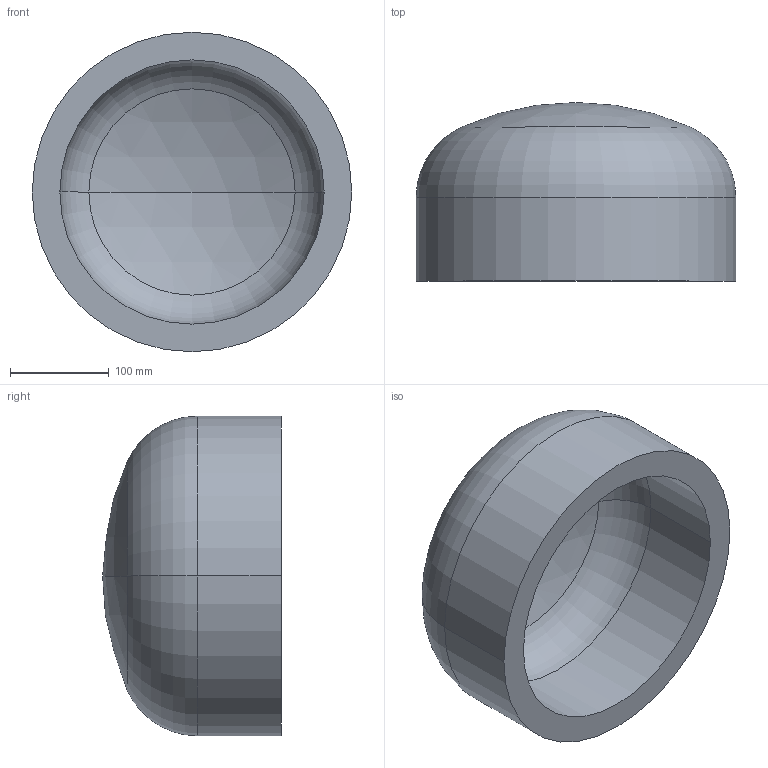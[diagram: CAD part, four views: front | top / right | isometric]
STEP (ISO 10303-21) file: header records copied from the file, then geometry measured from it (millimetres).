
FILE_DESCRIPTION (( 'STEP AP203' ), '1' );
FILE_NAME ('DIN 28013 Korbbogenform_-_Boden DIN 28013 - 323,9 x 85 - I - s=28.step', '2016-07-01T07:45:06', ( '' ), ( '' ), 'SwSTEP 2.0', 'SolidWorks 2013', '' );
FILE_SCHEMA (( 'CONFIG_CONTROL_DESIGN' ));
Length unit declared in the file: millimetre
Products named in the file (1): DIN 28013 Korbbogenform_-_Boden DIN 28013 - 323,9 x 85 - I - s=28
Bounding box: 323.9 x 181.07 x 323.9 mm (x, y, z)
Volume: 5084103.1 mm3; surface area: 390820.9 mm2
Topology: 1 solids, 1 shells, 13 faces, 24 edges, 14 vertices
Faces by surface type: torus 4, cylinder 4, sphere 4, plane 1
Entity records: 407 total; most frequent: DIRECTION 72, CARTESIAN_POINT 52, ORIENTED_EDGE 48, AXIS2_PLACEMENT_3D 34, EDGE_CURVE 24, CIRCLE 20, EDGE_LOOP 14, VERTEX_POINT 14
